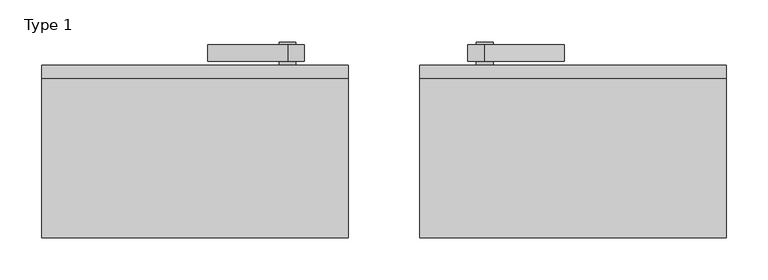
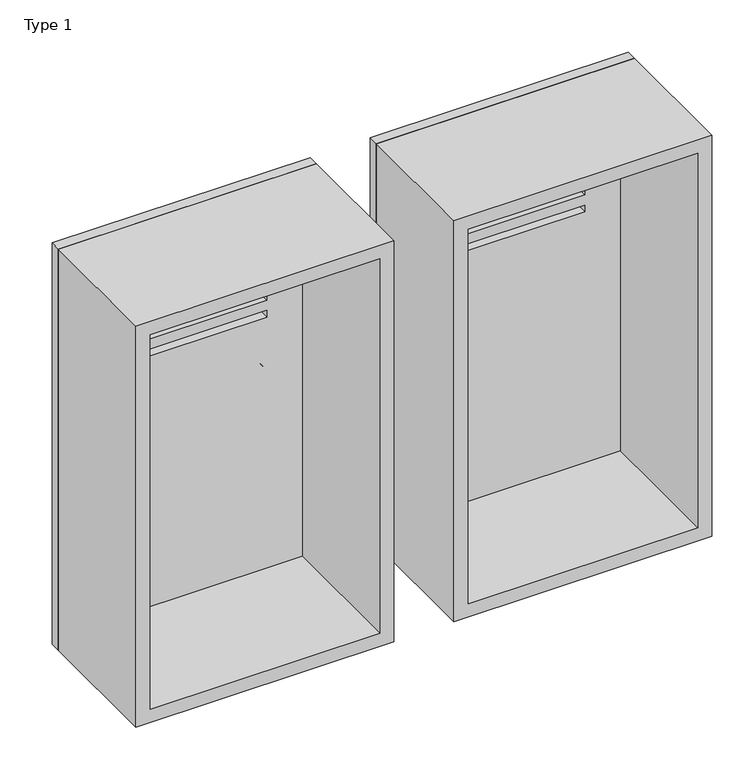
"""IFC4 building model written with IfcOpenShell, lengths in millimetres: proxy geometry, BIMHealth-Mains_Switchgear-LOD2A-v1 : Type 1."""

from ifc_helpers import new_model, si_unit, point, frame, frame_2d, origin, place, context, project, spatial, polyline, circle_curve, trimmed, segment, composite_curve, outline, extrude, source, transform, mapped, element, save


def type_1_a1218392(model_context):
    return source(origin(), model_context, "Body", "SweptSolid", [
        extrude(outline(composite_curve([segment(polyline([(1139.9546909, -84.906251), (1134.9546909, -84.906251), (1129.9546909, -84.906251), (1114.9546909, 10.093749)]), True, "CONTINUOUS"), segment(trimmed(circle_curve(frame_2d((1134.9546909, 10.093749)), 20.0), [point((1114.9546909, 10.093749))], [point((1154.9546909, 10.093749))], False, "CARTESIAN"), True, "CONTINUOUS"), segment(polyline([(1154.9546909, 10.093749), (1139.9546909, -84.906251)]), True, "CONTINUOUS")], self_intersect=False), holes=[composite_curve([segment(trimmed(circle_curve(frame_2d((1134.9546909, 10.093749)), 10.0), [point((1134.9546909, 0.093749))], [point((1134.9546909, 20.093749))], True, "CARTESIAN"), True, "CONTINUOUS"), segment(trimmed(circle_curve(frame_2d((1134.9546909, 10.093749)), 10.0), [point((1134.9546909, 20.093749))], [point((1134.9546909, 0.093749))], True, "CARTESIAN"), True, "CONTINUOUS")], self_intersect=False)]), frame((0.0, 260.0, 0.0), z_axis=(0.0, 1.0, 0.0), x_axis=(0.0, 0.0, 1.0)), (0.0, 0.0, 1.0), 20.0),
        extrude(outline(composite_curve([segment(trimmed(circle_curve(frame_2d((1134.9546909, 10.093749)), 10.0), [point((1134.9546909, 0.093749))], [point((1134.9546909, 20.093749))], False, "CARTESIAN"), True, "CONTINUOUS"), segment(trimmed(circle_curve(frame_2d((1134.9546909, 10.093749)), 10.0), [point((1134.9546909, 20.093749))], [point((1134.9546909, 0.093749))], False, "CARTESIAN"), True, "CONTINUOUS")], self_intersect=False)), frame((0.0, 255.0, 0.0), z_axis=(0.0, 1.0, 0.0), x_axis=(0.0, 0.0, 1.0)), (0.0, 0.0, 1.0), 28.0306113),
        extrude(outline(composite_curve([segment(polyline([(1139.9546909, 339.906251), (1154.9546909, 244.906251)]), True, "CONTINUOUS"), segment(trimmed(circle_curve(frame_2d((1134.9546909, 244.906251)), 20.0), [point((1154.9546909, 244.906251))], [point((1114.9546909, 244.906251))], False, "CARTESIAN"), True, "CONTINUOUS"), segment(polyline([(1114.9546909, 244.906251), (1129.9546909, 339.906251), (1134.9546909, 339.906251), (1139.9546909, 339.906251)]), True, "CONTINUOUS")], self_intersect=False), holes=[composite_curve([segment(trimmed(circle_curve(frame_2d((1134.9546909, 244.906251)), 10.0), [point((1134.9546909, 254.906251))], [point((1134.9546909, 234.906251))], True, "CARTESIAN"), True, "CONTINUOUS"), segment(trimmed(circle_curve(frame_2d((1134.9546909, 244.906251)), 10.0), [point((1134.9546909, 234.906251))], [point((1134.9546909, 254.906251))], True, "CARTESIAN"), True, "CONTINUOUS")], self_intersect=False)]), frame((0.0, 260.0, 0.0), z_axis=(0.0, 1.0, 0.0), x_axis=(0.0, 0.0, 1.0)), (0.0, 0.0, 1.0), 20.0),
        extrude(outline(composite_curve([segment(trimmed(circle_curve(frame_2d((1134.9546909, 244.906251)), 10.0), [point((1134.9546909, 254.906251))], [point((1134.9546909, 234.906251))], False, "CARTESIAN"), True, "CONTINUOUS"), segment(trimmed(circle_curve(frame_2d((1134.9546909, 244.906251)), 10.0), [point((1134.9546909, 234.906251))], [point((1134.9546909, 254.906251))], False, "CARTESIAN"), True, "CONTINUOUS")], self_intersect=False)), frame((0.0, 255.0, 0.0), z_axis=(0.0, 1.0, 0.0), x_axis=(0.0, 0.0, 1.0)), (0.0, 0.0, 1.0), 28.0306113),
        extrude(outline(polyline([(1450.0, -282.5), (850.0, -282.5), (850.0, 82.5), (1450.0, 82.5), (1450.0, -282.5)]), holes=[polyline([(1380.0, -212.5), (1380.0, 12.5), (1370.0, 12.5), (1370.0, -212.5), (1380.0, -212.5)]), polyline([(1355.0, -212.5), (1355.0, 12.5), (1345.0, 12.5), (1345.0, -212.5), (1355.0, -212.5)]), polyline([(1330.0, -212.5), (1330.0, 12.5), (1320.0, 12.5), (1320.0, -212.5), (1330.0, -212.5)]), polyline([(1305.0, -212.5), (1305.0, 12.5), (1295.0, 12.5), (1295.0, -212.5), (1305.0, -212.5)]), polyline([(1280.0, -212.5), (1280.0, 12.5), (1270.0, 12.5), (1270.0, -212.5), (1280.0, -212.5)]), polyline([(1255.0, -212.5), (1255.0, 12.5), (1245.0, 12.5), (1245.0, -212.5), (1255.0, -212.5)])]), frame((0.0, 240.0, 0.0), z_axis=(0.0, 1.0, 0.0), x_axis=(0.0, 0.0, 1.0)), (0.0, 0.0, 1.0), 15.0),
        extrude(outline(polyline([(1450.0, 167.5), (850.0, 167.5), (850.0, 532.5), (1450.0, 532.5), (1450.0, 167.5)]), holes=[polyline([(1380.0, 237.5), (1380.0, 462.5), (1370.0, 462.5), (1370.0, 237.5), (1380.0, 237.5)]), polyline([(1355.0, 237.5), (1355.0, 462.5), (1345.0, 462.5), (1345.0, 237.5), (1355.0, 237.5)]), polyline([(1330.0, 237.5), (1330.0, 462.5), (1320.0, 462.5), (1320.0, 237.5), (1330.0, 237.5)]), polyline([(1305.0, 237.5), (1305.0, 462.5), (1295.0, 462.5), (1295.0, 237.5), (1305.0, 237.5)]), polyline([(1280.0, 237.5), (1280.0, 462.5), (1270.0, 462.5), (1270.0, 237.5), (1280.0, 237.5)]), polyline([(1255.0, 237.5), (1255.0, 462.5), (1245.0, 462.5), (1245.0, 237.5), (1255.0, 237.5)])]), frame((0.0, 240.0, 0.0), z_axis=(0.0, 1.0, 0.0), x_axis=(0.0, 0.0, 1.0)), (0.0, 0.0, 1.0), 15.0),
        extrude(outline(polyline([(1450.0, 167.5), (850.0, 167.5), (850.0, 532.5), (1450.0, 532.5), (1450.0, 167.5)]), holes=[polyline([(1430.0, 187.5), (1430.0, 512.5), (870.0, 512.5), (870.0, 187.5), (1430.0, 187.5)])]), frame((0.0, 50.0, 0.0), z_axis=(0.0, 1.0, 0.0), x_axis=(0.0, 0.0, 1.0)), (0.0, 0.0, 1.0), 190.0),
        extrude(outline(polyline([(1450.0, -282.5), (850.0, -282.5), (850.0, 82.5), (1450.0, 82.5), (1450.0, -282.5)]), holes=[polyline([(870.0, 62.5), (870.0, -262.5), (1430.0, -262.5), (1430.0, 62.5), (870.0, 62.5)])]), frame((0.0, 50.0, 0.0), z_axis=(0.0, 1.0, 0.0), x_axis=(0.0, 0.0, 1.0)), (0.0, 0.0, 1.0), 190.0),
    ])


if __name__ == "__main__":
    model = new_model("IFC4")
    model_context = context("Model", 3, world=origin())
    ifc_project = project(units=[si_unit("LENGTHUNIT", "METRE", prefix="MILLI")], contexts=[model_context])
    site = spatial("IfcSite", under=ifc_project)
    building = spatial("IfcBuilding", under=site)
    placement = place(None, origin())
    type_1_shape = type_1_a1218392(model_context)
    element("IfcBuildingElementProxy", 1, Name="BIMHealth-Mains_Switchgear-LOD2A-v1 : Type 1", ObjectType="BIMHealth-Mains_Switchgear-LOD2A-v1 : Type 1", at=placement, inside=building, context=model_context, shape_type="MappedRepresentation", body=[
        mapped(type_1_shape, transform((0.0, 0.0, 0.0), x_axis=(1.0, 0.0, 0.0), y_axis=(0.0, 1.0, 0.0), z_axis=(0.0, 0.0, 1.0))),
    ])
    save(model, "model.ifc")
